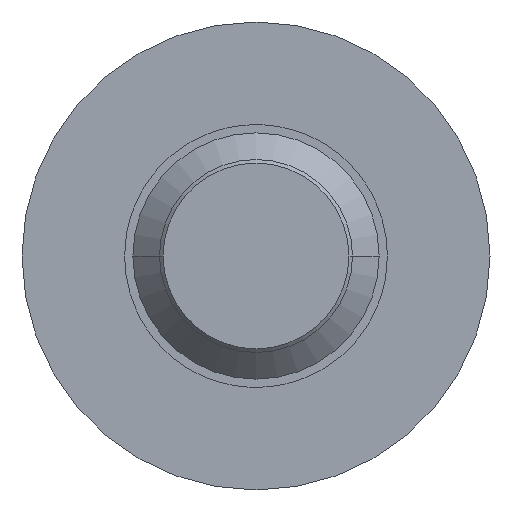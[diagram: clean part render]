
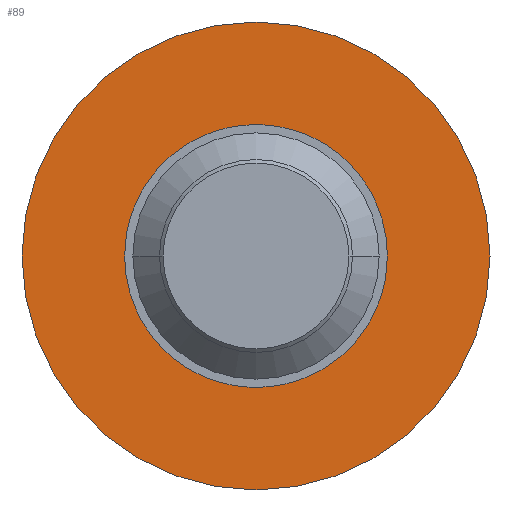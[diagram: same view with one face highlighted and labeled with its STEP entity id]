
A CAD part, front view. The second image highlights one B-rep face of the part: STEP entity #89.
In plain terms, the highlighted planar face has unit normal (0, -1, 0).
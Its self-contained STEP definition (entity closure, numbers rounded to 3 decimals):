
#68=FACE_BOUND('',#161,.F.);
#89=ADVANCED_FACE('',(#68,#125),#345,.T.);
#125=FACE_OUTER_BOUND('',#162,.F.);
#161=EDGE_LOOP('',(#206,#207));
#162=EDGE_LOOP('',(#208,#209));
#206=ORIENTED_EDGE('',*,*,#431,.F.);
#207=ORIENTED_EDGE('',*,*,#430,.F.);
#208=ORIENTED_EDGE('',*,*,#421,.F.);
#209=ORIENTED_EDGE('',*,*,#428,.F.);
#345=PLANE('',#593);
#356=B_SPLINE_CURVE_WITH_KNOTS('',3,(#849,#850,#851,#852,#853,#854,#855,
#856,#857,#858,#859,#860,#861,#862),.UNSPECIFIED.,.F.,.F.,(4,1,1,1,1,1,1,
1,1,1,1,4),(0.,0.106,0.182,0.273,0.364,
0.455,0.545,0.636,0.727,
0.818,0.894,1.),.UNSPECIFIED.);
#357=B_SPLINE_CURVE_WITH_KNOTS('',3,(#863,#864,#865,#866,#867,#868,#869,
#870,#871,#872,#873,#874,#875,#876),.UNSPECIFIED.,.F.,.F.,(4,1,1,1,1,1,1,
1,1,1,1,4),(0.,0.106,0.182,0.273,0.364,
0.455,0.545,0.636,0.727,0.818,
0.894,1.),.UNSPECIFIED.);
#421=EDGE_CURVE('',#552,#551,#493,.T.);
#428=EDGE_CURVE('',#551,#552,#496,.T.);
#430=EDGE_CURVE('',#548,#547,#356,.T.);
#431=EDGE_CURVE('',#547,#548,#357,.T.);
#493=CIRCLE('',#570,1.9);
#496=CIRCLE('',#573,1.9);
#547=VERTEX_POINT('',#827);
#548=VERTEX_POINT('',#828);
#551=VERTEX_POINT('',#831);
#552=VERTEX_POINT('',#832);
#570=AXIS2_PLACEMENT_3D('',#840,#645,#646);
#573=AXIS2_PLACEMENT_3D('',#847,#655,#656);
#593=AXIS2_PLACEMENT_3D('',#1003,#707,#708);
#645=DIRECTION('',(0.,-1.,0.));
#646=DIRECTION('',(-1.,0.,0.));
#655=DIRECTION('',(0.,-1.,0.));
#656=DIRECTION('',(1.,0.,0.));
#707=DIRECTION('',(0.,-1.,0.));
#708=DIRECTION('',(0.,0.,1.));
#827=CARTESIAN_POINT('',(21.691,-2.496,-46.011));
#828=CARTESIAN_POINT('',(19.558,-2.496,-46.011));
#831=CARTESIAN_POINT('',(22.524,-2.496,-46.011));
#832=CARTESIAN_POINT('',(18.724,-2.496,-46.011));
#840=CARTESIAN_POINT('',(20.624,-2.496,-46.011));
#847=CARTESIAN_POINT('',(20.624,-2.496,-46.011));
#849=CARTESIAN_POINT('',(19.558,-2.496,-46.011));
#850=CARTESIAN_POINT('',(19.557,-2.496,-45.892));
#851=CARTESIAN_POINT('',(19.592,-2.496,-45.69));
#852=CARTESIAN_POINT('',(19.726,-2.496,-45.413));
#853=CARTESIAN_POINT('',(19.916,-2.496,-45.194));
#854=CARTESIAN_POINT('',(20.175,-2.496,-45.027));
#855=CARTESIAN_POINT('',(20.471,-2.496,-44.94));
#856=CARTESIAN_POINT('',(20.778,-2.496,-44.94));
#857=CARTESIAN_POINT('',(21.074,-2.496,-45.027));
#858=CARTESIAN_POINT('',(21.333,-2.496,-45.194));
#859=CARTESIAN_POINT('',(21.523,-2.496,-45.413));
#860=CARTESIAN_POINT('',(21.657,-2.496,-45.69));
#861=CARTESIAN_POINT('',(21.692,-2.496,-45.892));
#862=CARTESIAN_POINT('',(21.691,-2.496,-46.011));
#863=CARTESIAN_POINT('',(21.691,-2.496,-46.011));
#864=CARTESIAN_POINT('',(21.692,-2.496,-46.129));
#865=CARTESIAN_POINT('',(21.657,-2.496,-46.332));
#866=CARTESIAN_POINT('',(21.523,-2.496,-46.608));
#867=CARTESIAN_POINT('',(21.333,-2.496,-46.828));
#868=CARTESIAN_POINT('',(21.074,-2.496,-46.994));
#869=CARTESIAN_POINT('',(20.778,-2.496,-47.081));
#870=CARTESIAN_POINT('',(20.471,-2.496,-47.081));
#871=CARTESIAN_POINT('',(20.175,-2.496,-46.994));
#872=CARTESIAN_POINT('',(19.916,-2.496,-46.828));
#873=CARTESIAN_POINT('',(19.726,-2.496,-46.608));
#874=CARTESIAN_POINT('',(19.592,-2.496,-46.332));
#875=CARTESIAN_POINT('',(19.557,-2.496,-46.129));
#876=CARTESIAN_POINT('',(19.558,-2.496,-46.011));
#1003=CARTESIAN_POINT('',(22.562,-2.496,-47.949));
